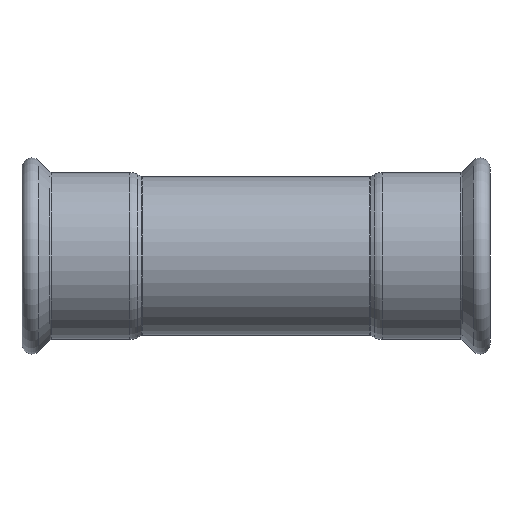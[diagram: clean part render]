
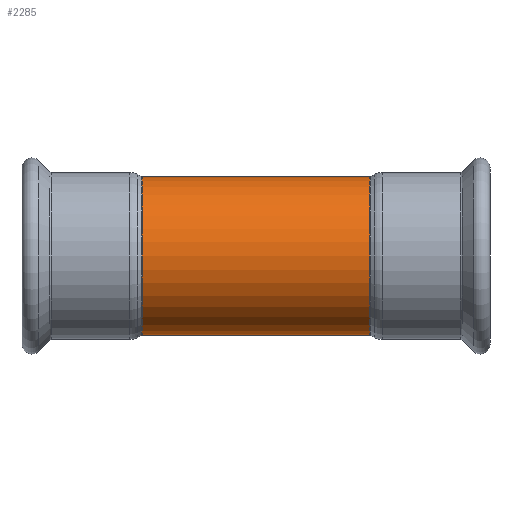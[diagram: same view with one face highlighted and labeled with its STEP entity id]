
A CAD part, front view. The second image highlights one B-rep face of the part: STEP entity #2285.
In plain terms, the highlighted cylindrical face has radius 43.95 mm (diameter 87.9 mm), a partial arc.
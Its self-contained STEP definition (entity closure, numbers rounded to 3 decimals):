
#94 = VECTOR ( 'NONE', #698, 1000. ) ;
#181 = EDGE_CURVE ( 'NONE', #3409, #1317, #2043, .T. ) ;
#271 = ORIENTED_EDGE ( 'NONE', *, *, #181, .T. ) ;
#298 = EDGE_LOOP ( 'NONE', ( #3458, #2975, #271, #4136 ) ) ;
#383 = EDGE_CURVE ( 'NONE', #2415, #3111, #4376, .T. ) ;
#421 = DIRECTION ( 'NONE',  ( -1., 0., 0. ) ) ;
#496 = EDGE_CURVE ( 'NONE', #2415, #3409, #3679, .T. ) ;
#698 = DIRECTION ( 'NONE',  ( -1., 0., 0. ) ) ;
#885 = CARTESIAN_POINT ( 'NONE',  ( 27.146, 0., 0. ) ) ;
#907 = AXIS2_PLACEMENT_3D ( 'NONE', #2095, #421, #3434 ) ;
#1131 = DIRECTION ( 'NONE',  ( -1., 0., 0. ) ) ;
#1220 = CARTESIAN_POINT ( 'NONE',  ( -63.056, 0., -43.95 ) ) ;
#1317 = VERTEX_POINT ( 'NONE', #3632 ) ;
#1352 = CIRCLE ( 'NONE', #2171, 43.95 ) ;
#1386 = CARTESIAN_POINT ( 'NONE',  ( 63.056, 0., -43.95 ) ) ;
#1581 = DIRECTION ( 'NONE',  ( 0., 0., 1. ) ) ;
#1642 = EDGE_CURVE ( 'NONE', #3111, #1317, #1352, .T. ) ;
#1804 = CARTESIAN_POINT ( 'NONE',  ( 63.056, 0., 43.95 ) ) ;
#2043 = LINE ( 'NONE', #3691, #2571 ) ;
#2095 = CARTESIAN_POINT ( 'NONE',  ( 63.056, 0., 0. ) ) ;
#2171 = AXIS2_PLACEMENT_3D ( 'NONE', #3149, #1131, #4176 ) ;
#2285 = ADVANCED_FACE ( 'NONE', ( #2409 ), #3629, .T. ) ;
#2409 = FACE_OUTER_BOUND ( 'NONE', #298, .T. ) ;
#2415 = VERTEX_POINT ( 'NONE', #1386 ) ;
#2571 = VECTOR ( 'NONE', #2958, 1000. ) ;
#2746 = CARTESIAN_POINT ( 'NONE',  ( 27.146, 0., -43.95 ) ) ;
#2958 = DIRECTION ( 'NONE',  ( -1., 0., 0. ) ) ;
#2975 = ORIENTED_EDGE ( 'NONE', *, *, #496, .T. ) ;
#3111 = VERTEX_POINT ( 'NONE', #1220 ) ;
#3149 = CARTESIAN_POINT ( 'NONE',  ( -63.056, 0., 0. ) ) ;
#3409 = VERTEX_POINT ( 'NONE', #1804 ) ;
#3434 = DIRECTION ( 'NONE',  ( 0., 0., 1. ) ) ;
#3458 = ORIENTED_EDGE ( 'NONE', *, *, #383, .F. ) ;
#3604 = DIRECTION ( 'NONE',  ( -1., 0., 0. ) ) ;
#3629 = CYLINDRICAL_SURFACE ( 'NONE', #4146, 43.95 ) ;
#3632 = CARTESIAN_POINT ( 'NONE',  ( -63.056, 0., 43.95 ) ) ;
#3679 = CIRCLE ( 'NONE', #907, 43.95 ) ;
#3691 = CARTESIAN_POINT ( 'NONE',  ( 27.146, 0., 43.95 ) ) ;
#4136 = ORIENTED_EDGE ( 'NONE', *, *, #1642, .F. ) ;
#4146 = AXIS2_PLACEMENT_3D ( 'NONE', #885, #3604, #1581 ) ;
#4176 = DIRECTION ( 'NONE',  ( 0., 0., 1. ) ) ;
#4376 = LINE ( 'NONE', #2746, #94 ) ;
